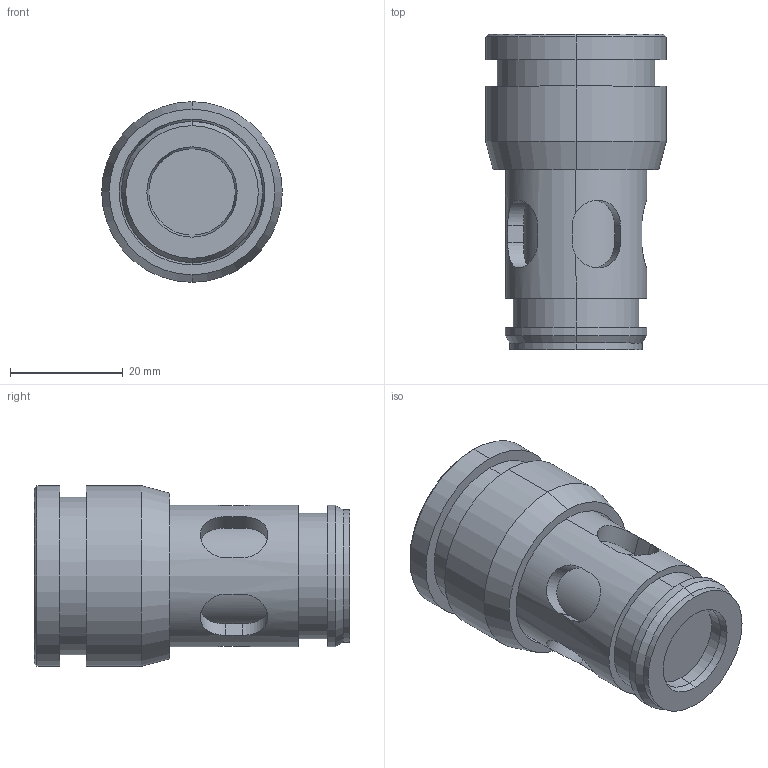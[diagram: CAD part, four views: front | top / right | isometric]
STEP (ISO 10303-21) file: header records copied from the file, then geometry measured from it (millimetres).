
FILE_DESCRIPTION (( 'STEP AP214' ), '1' );
FILE_NAME ('C.EN16-10.STEP', '2018-10-10T07:53:15', ( '' ), ( '' ), 'SwSTEP 2.0', 'SolidWorks 2016', '' );
FILE_SCHEMA (( 'AUTOMOTIVE_DESIGN' ));
Length unit declared in the file: millimetre
Products named in the file (2): C.EN16-10
Bounding box: 32 x 55.9 x 32 mm (x, y, z)
Volume: 28805.7 mm3; surface area: 11224.1 mm2
Topology: 2 solids, 2 shells, 82 faces, 179 edges, 114 vertices
Faces by surface type: cylinder 44, plane 24, cone 12, torus 2
Entity records: 3873 total; most frequent: CARTESIAN_POINT 1093, DIRECTION 391, ORIENTED_EDGE 358, EDGE_CURVE 179, AXIS2_PLACEMENT_3D 154, VERTEX_POINT 114, EDGE_LOOP 97, UNCERTAINTY_MEASURE_WITH_UNIT 86
